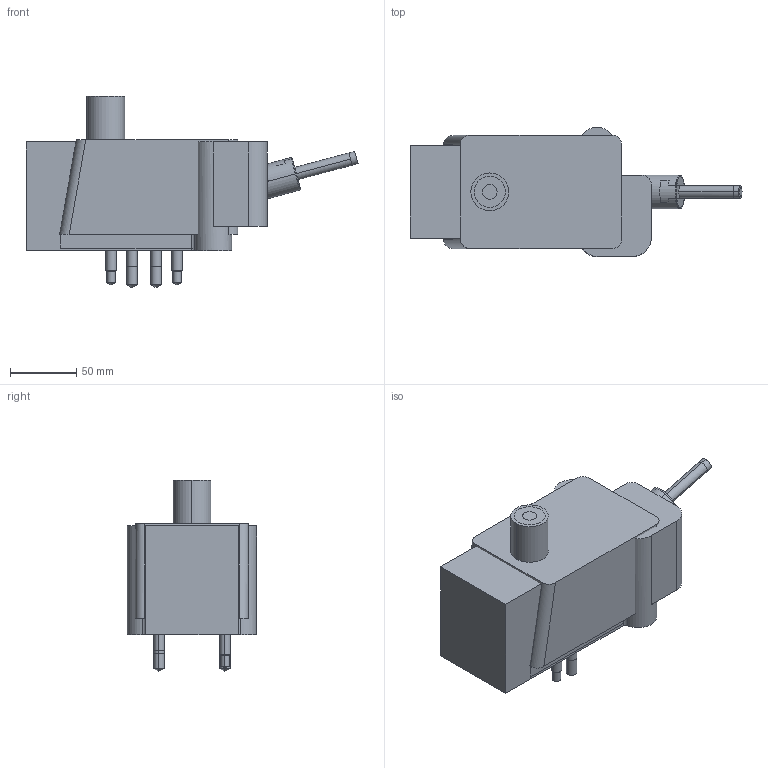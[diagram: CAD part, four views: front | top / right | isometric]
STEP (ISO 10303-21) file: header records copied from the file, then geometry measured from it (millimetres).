
FILE_DESCRIPTION((' '),'2;1');
FILE_NAME( 'EZ-15-S-L.stp', '2024-07-17T08:02:20', (' '), ('--- Datakit www.datakit.com---'), ' Datakit CrossCadWare V2020.4 Oct 21 2020', 'Export from SolidLink (Hexagon Production Software)', ' ');
FILE_SCHEMA(('AP242_MANAGED_MODEL_BASED_3D_ENGINEERING_MIM_LF { 1 0 10303 442 1 1 4 }'));
Length unit declared in the file: millimetre
Products named in the file (134): Workplanes; 1700841396; 1700504001; 1679434953; 1679434952; 1679434951; 1679434950; 1679434949; 1679434944; 1679434941; 1679434926; 1679434925; 1679434924; 1679434921; 1679434920; 1700493153; 1701203881; 1701283419; 1721290102; 1721294294; 1721294295; 1721294296; 1721294297; 1721294298; 1721294299; 1721294300; 1721294301; 1721294302; 1721294303; 1721294304; 1721294305; 1721294306; 1721294307; 1721294308; 1721294309; 1721294310; 1721294311; 1721294312; 1721294313; 1721294314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
Bounding box: 251.47 x 97.75 x 144.89 mm (x, y, z)
Volume: 2597873.1 mm3; surface area: 232428.5 mm2
Topology: 17 solids, 18 shells, 451 faces, 1301 edges, 1108 vertices
Faces by surface type: cylinder 182, plane 153, cone 104, sphere 6, torus 4, bspline 2
Entity records: 18129 total; most frequent: CARTESIAN_POINT 4651, DIRECTION 2707, ORIENTED_EDGE 2122, AXIS2_PLACEMENT_3D 1068, EDGE_CURVE 1067, VERTEX_POINT 684, VECTOR 571, LINE 571
